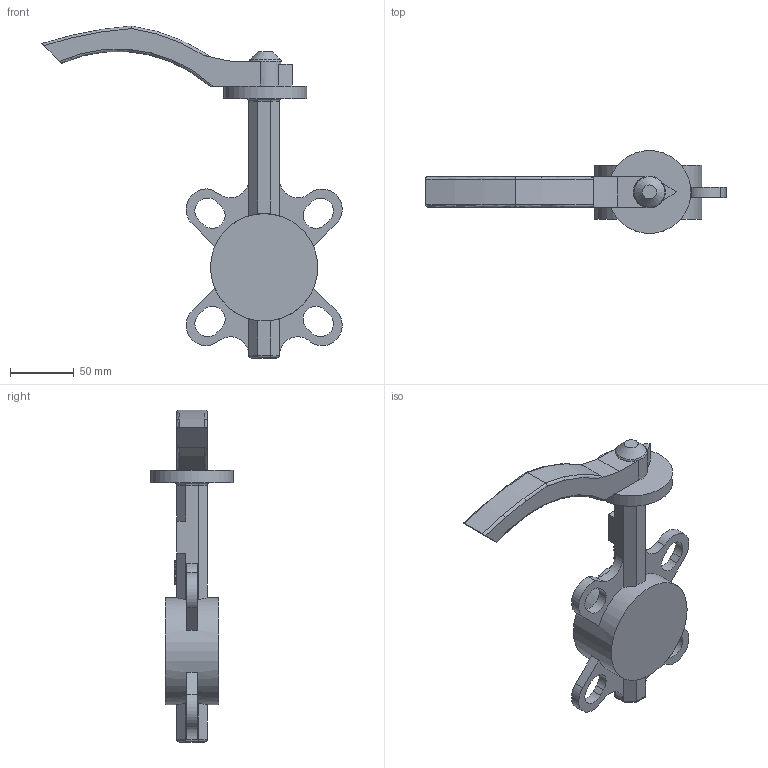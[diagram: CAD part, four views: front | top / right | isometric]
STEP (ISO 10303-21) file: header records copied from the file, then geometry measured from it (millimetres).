
FILE_DESCRIPTION(/* description */ (''),/* implementation_level */ '2;1');
FILE_NAME(/* name */ 'DN50.stp',/* time_stamp */ '2026-08-14T14:31:22+08:00',/* author */ (''),/* organization */ (''),/* preprocessor_version */ 'ST-DEVELOPER v16.7',/* originating_system */ 'SIEMENS PLM Software NX 12.0',/* authorisation */ '');
FILE_SCHEMA (('AUTOMOTIVE_DESIGN { 1 0 10303 214 3 1 1 1 }'));
Length unit declared in the file: millimetre
Products named in the file (1): DN50
Bounding box: 235.02 x 65 x 260 mm (x, y, z)
Volume: 442050.8 mm3; surface area: 68144.2 mm2
Topology: 6 solids, 6 shells, 193 faces, 518 edges, 339 vertices
Faces by surface type: plane 92, extrusion 51, cylinder 42, torus 7, cone 1
Full cylindrical faces by diameter (mm): 25 x1, 65 x1, 84 x1
Entity records: 6355 total; most frequent: CARTESIAN_POINT 1668, ORIENTED_EDGE 1012, DIRECTION 815, EDGE_CURVE 506, VECTOR 339, VERTEX_POINT 333, LINE 288, AXIS2_PLACEMENT_3D 238
